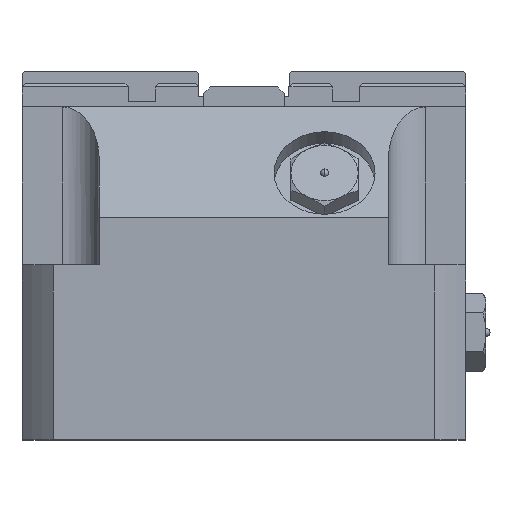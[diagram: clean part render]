
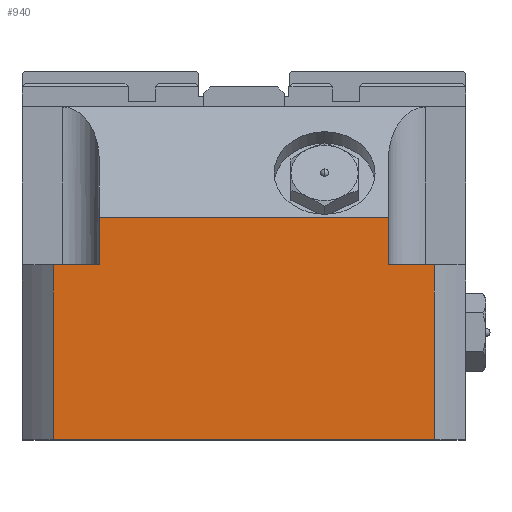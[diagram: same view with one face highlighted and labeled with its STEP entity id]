
A CAD part, top view. The second image highlights one B-rep face of the part: STEP entity #940.
In plain terms, the highlighted planar face has unit normal (0, 0, 1).
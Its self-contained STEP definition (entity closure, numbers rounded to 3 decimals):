
#826 = EDGE_CURVE ( 'NONE', #904, #3544, #5023, .T. ) ;
#874 = EDGE_CURVE ( 'NONE', #896, #3547, #5124, .T. ) ;
#896 = VERTEX_POINT ( 'NONE', #5205 ) ;
#904 = VERTEX_POINT ( 'NONE', #5193 ) ;
#916 = EDGE_CURVE ( 'NONE', #917, #918, #5239, .T. ) ;
#917 = VERTEX_POINT ( 'NONE', #5235 ) ;
#918 = VERTEX_POINT ( 'NONE', #5234 ) ;
#919 = ORIENTED_EDGE ( 'NONE', *, *, #920, .F. ) ;
#920 = EDGE_CURVE ( 'NONE', #921, #918, #5233, .T. ) ;
#921 = VERTEX_POINT ( 'NONE', #5229 ) ;
#922 = ORIENTED_EDGE ( 'NONE', *, *, #923, .F. ) ;
#923 = EDGE_CURVE ( 'NONE', #924, #921, #5228, .T. ) ;
#924 = VERTEX_POINT ( 'NONE', #5224 ) ;
#925 = ORIENTED_EDGE ( 'NONE', *, *, #926, .F. ) ;
#926 = EDGE_CURVE ( 'NONE', #896, #924, #5223, .T. ) ;
#927 = ORIENTED_EDGE ( 'NONE', *, *, #874, .T. ) ;
#928 = ORIENTED_EDGE ( 'NONE', *, *, #3546, .T. ) ;
#940 = ADVANCED_FACE ( 'NONE', ( #5256 ), #5254, .F. ) ;
#941 = EDGE_LOOP ( 'NONE', ( #942, #919, #922, #925, #927, #928, #986, #987 ) ) ;
#942 = ORIENTED_EDGE ( 'NONE', *, *, #916, .T. ) ;
#986 = ORIENTED_EDGE ( 'NONE', *, *, #826, .F. ) ;
#987 = ORIENTED_EDGE ( 'NONE', *, *, #988, .F. ) ;
#988 = EDGE_CURVE ( 'NONE', #917, #904, #5302, .T. ) ;
#3544 = VERTEX_POINT ( 'NONE', #9565 ) ;
#3546 = EDGE_CURVE ( 'NONE', #3547, #3544, #9627, .T. ) ;
#3547 = VERTEX_POINT ( 'NONE', #9623 ) ;
#5023 = LINE ( 'NONE', #5081, #5080 ) ;
#5079 = DIRECTION ( 'NONE',  ( 0., -1., 0. ) ) ;
#5080 = VECTOR ( 'NONE', #5079, 1000. ) ;
#5081 = CARTESIAN_POINT ( 'NONE',  ( 28.342, 49.5, 33. ) ) ;
#5121 = DIRECTION ( 'NONE',  ( 0., -1., 0. ) ) ;
#5122 = VECTOR ( 'NONE', #5121, 1000. ) ;
#5123 = CARTESIAN_POINT ( 'NONE',  ( -28.342, 49.5, 33. ) ) ;
#5124 = LINE ( 'NONE', #5123, #5122 ) ;
#5193 = CARTESIAN_POINT ( 'NONE',  ( 28.342, 26., 33. ) ) ;
#5205 = CARTESIAN_POINT ( 'NONE',  ( -28.342, 26., 33. ) ) ;
#5220 = DIRECTION ( 'NONE',  ( 1., 0., 0. ) ) ;
#5221 = VECTOR ( 'NONE', #5220, 1000. ) ;
#5222 = CARTESIAN_POINT ( 'NONE',  ( -33., 26., 33. ) ) ;
#5223 = LINE ( 'NONE', #5222, #5221 ) ;
#5224 = CARTESIAN_POINT ( 'NONE',  ( -21.5, 26., 33. ) ) ;
#5225 = DIRECTION ( 'NONE',  ( 0., 1., 0. ) ) ;
#5226 = VECTOR ( 'NONE', #5225, 1000. ) ;
#5227 = CARTESIAN_POINT ( 'NONE',  ( -21.5, 26., 33. ) ) ;
#5228 = LINE ( 'NONE', #5227, #5226 ) ;
#5229 = CARTESIAN_POINT ( 'NONE',  ( -21.5, 33.076, 33. ) ) ;
#5230 = DIRECTION ( 'NONE',  ( 1., 0., 0. ) ) ;
#5231 = VECTOR ( 'NONE', #5230, 1000. ) ;
#5232 = CARTESIAN_POINT ( 'NONE',  ( -33., 33.076, 33. ) ) ;
#5233 = LINE ( 'NONE', #5232, #5231 ) ;
#5234 = CARTESIAN_POINT ( 'NONE',  ( 21.5, 33.076, 33. ) ) ;
#5235 = CARTESIAN_POINT ( 'NONE',  ( 21.5, 26., 33. ) ) ;
#5236 = DIRECTION ( 'NONE',  ( 0., 1., 0. ) ) ;
#5237 = VECTOR ( 'NONE', #5236, 1000. ) ;
#5238 = CARTESIAN_POINT ( 'NONE',  ( 21.5, 26., 33. ) ) ;
#5239 = LINE ( 'NONE', #5238, #5237 ) ;
#5250 = DIRECTION ( 'NONE',  ( -1., 0., 0. ) ) ;
#5251 = DIRECTION ( 'NONE',  ( 0., 0., -1. ) ) ;
#5252 = CARTESIAN_POINT ( 'NONE',  ( -28.342, 49.5, 33. ) ) ;
#5253 = AXIS2_PLACEMENT_3D ( 'NONE', #5252, #5251, #5250 ) ;
#5254 = PLANE ( 'NONE',  #5253 ) ;
#5256 = FACE_OUTER_BOUND ( 'NONE', #941, .T. ) ;
#5299 = DIRECTION ( 'NONE',  ( 1., 0., 0. ) ) ;
#5300 = VECTOR ( 'NONE', #5299, 1000. ) ;
#5301 = CARTESIAN_POINT ( 'NONE',  ( 33., 26., 33. ) ) ;
#5302 = LINE ( 'NONE', #5301, #5300 ) ;
#9565 = CARTESIAN_POINT ( 'NONE',  ( 28.342, 0., 33. ) ) ;
#9623 = CARTESIAN_POINT ( 'NONE',  ( -28.342, 0., 33. ) ) ;
#9624 = DIRECTION ( 'NONE',  ( 1., 0., 0. ) ) ;
#9625 = VECTOR ( 'NONE', #9624, 1000. ) ;
#9626 = CARTESIAN_POINT ( 'NONE',  ( -28.342, 0., 33. ) ) ;
#9627 = LINE ( 'NONE', #9626, #9625 ) ;
